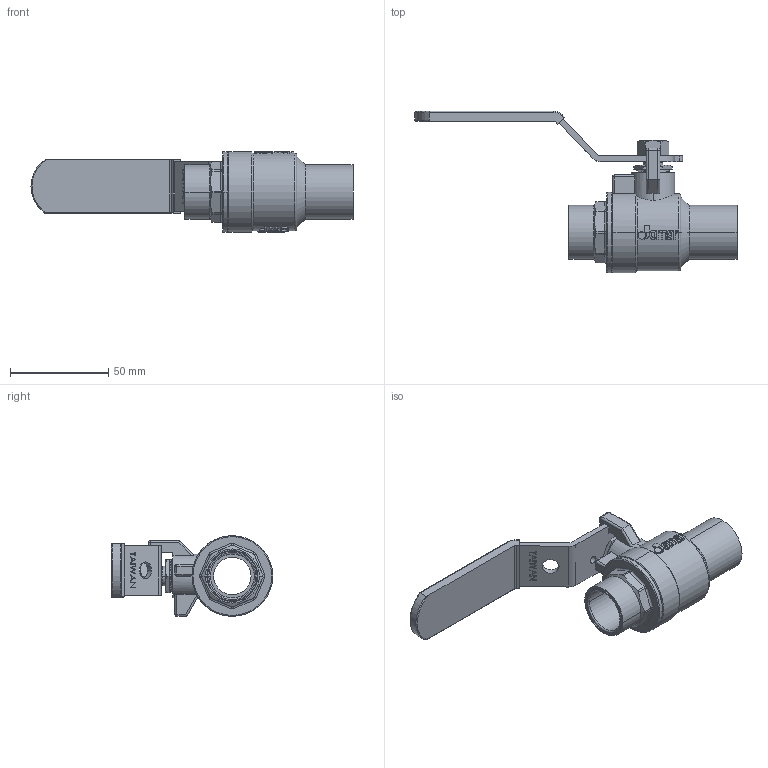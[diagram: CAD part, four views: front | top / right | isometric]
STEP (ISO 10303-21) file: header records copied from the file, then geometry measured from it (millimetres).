
FILE_DESCRIPTION (( 'STEP AP203' ), '1' );
FILE_NAME ('ABL734-無掛鎖-0.75''''JOMAR球閥體-CxC組合.STEP', '2026-04-13T03:46:49', ( '' ), ( '' ), 'SwSTEP 2.0', 'SolidWorks 2018', '' );
FILE_SCHEMA (( 'CONFIG_CONTROL_DESIGN' ));
Length unit declared in the file: millimetre
Products named in the file (13): BBL734-0.75''''JOMAR瞴恢砰-CxC-Τ筣础肪-礚LF; BBL734A-0.75''''JOMAR瞴恢-CxC碪籠-Τ筣础肪; TBL264A; NBL265; DN20-CBL734-HANDLE & SLEEVE 組合(黃色S膠套); GBL205 (組裝); ABL734-無掛鎖-0.75''''JOMAR球閥體-CxC組合; CBL235-20230914改; EBL205B; RBL264; EBL104; CBL215-黃色膠套-S200CSS; EBL205A
Assembly tree (13 placements, depth 3):
  ABL734-無掛鎖-0.75''''JOMAR球閥體-CxC組合
    BBL734-0.75''''JOMAR瞴恢砰-CxC-Τ筣础肪-礚LF
    RBL264
    EBL205A
    EBL205B
    GBL205 (組裝)
    TBL264A
    BBL734A-0.75''''JOMAR瞴恢-CxC碪籠-Τ筣础肪
    EBL104  x2
    NBL265
    DN20-CBL734-HANDLE & SLEEVE 組合(黃色S膠套)
      CBL235-20230914改
      CBL215-黃色膠套-S200CSS
Bounding box: 163.7 x 82.01 x 41 mm (x, y, z)
Volume: 65885.9 mm3; surface area: 52743.4 mm2
Topology: 12 solids, 12 shells, 1422 faces, 3747 edges, 2452 vertices
Faces by surface type: plane 588, bspline 481, cylinder 235, cone 71, torus 33, sphere 14
Entity records: 75006 total; most frequent: CARTESIAN_POINT 42601, ORIENTED_EDGE 7422, DIRECTION 4717, EDGE_CURVE 3711, VERTEX_POINT 2434, LINE 1939, VECTOR 1939, EDGE_LOOP 1545
